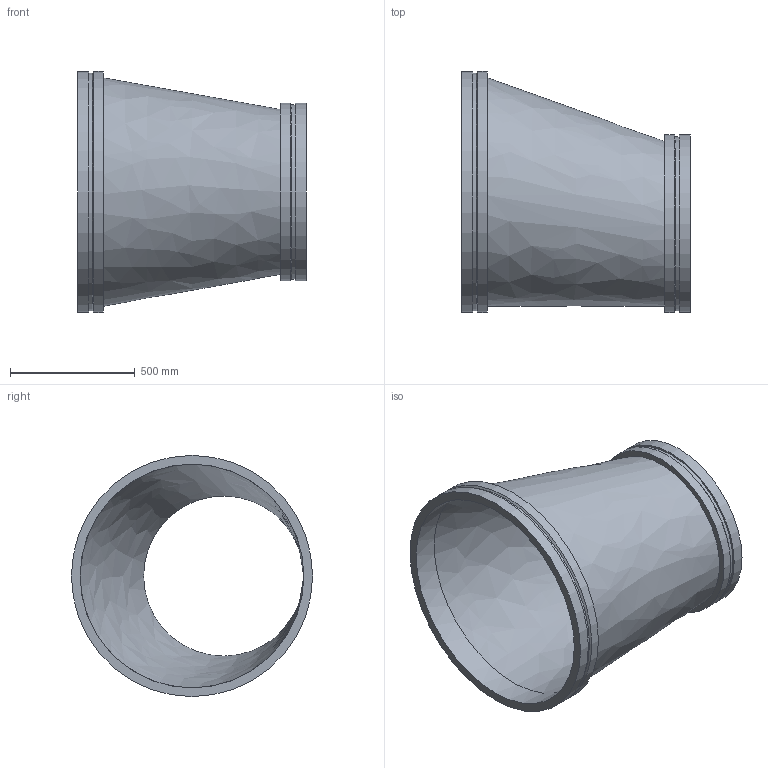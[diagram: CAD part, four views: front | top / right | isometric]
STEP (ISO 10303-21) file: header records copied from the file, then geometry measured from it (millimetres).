
FILE_DESCRIPTION(/* description */ ('VIC REDUCER ECCENTRIC No W51-VR','CAx-IF Rec.Pracs.---Representation and Presentation of Product Manufacturing Information (PMI)---4.0---2014-10-13'),/* implementation_level */ '2;1');
FILE_NAME(/* name */ 'C:\Users\kkamble\AppData\Roaming\Autodesk\ApplicationPlugins\Back Up\Victaulic_Vic-Ring_Reducer Eccentric_No W51 VR (AGR)\Victaulic_Vic-Ring_Reducer Eccentric_No W51 VR (AGR)_36.0x26.0 (900x650).stp',/* time_stamp */ '2020-09-10T11:50:40+05:00',/* author */ ('CONSTRUCTION PIPING SERVICES'),/* organization */ ('Victaulic'),/* preprocessor_version */ 'ST-DEVELOPER v17.2',/* originating_system */ 'Autodesk Inventor 2019',/* authorisation */ '');
FILE_SCHEMA (('AP242_MANAGED_MODEL_BASED_3D_ENGINEERING_MIM_LF { 1 0 10303 442 1 1 4 }'));
Length unit declared in the file: inch
Products named in the file (1): W51 VR-36.0x26.0
Bounding box: 914.4 x 965.2 x 965.2 mm (x, y, z)
Volume: 33803461.6 mm3; surface area: 4942714.1 mm2
Topology: 1 solids, 1 shells, 18 faces, 49 edges, 37 vertices
Faces by surface type: cylinder 8, plane 6, cone 2, bspline 2
Full cylindrical faces by diameter (mm): 641.35 x1, 696.722 x1, 711.2 x2, 895.35 x1, 950.722 x1, 965.2 x2
Entity records: 792 total; most frequent: CARTESIAN_POINT 158, DIRECTION 144, ORIENTED_EDGE 98, AXIS2_PLACEMENT_3D 67, EDGE_CURVE 49, CIRCLE 37, VERTEX_POINT 37, EDGE_LOOP 24
